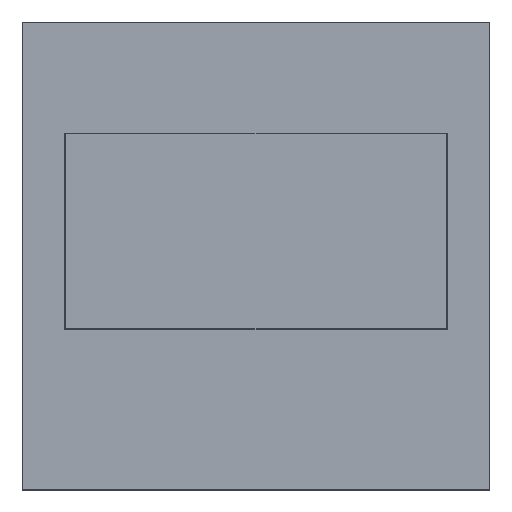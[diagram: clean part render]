
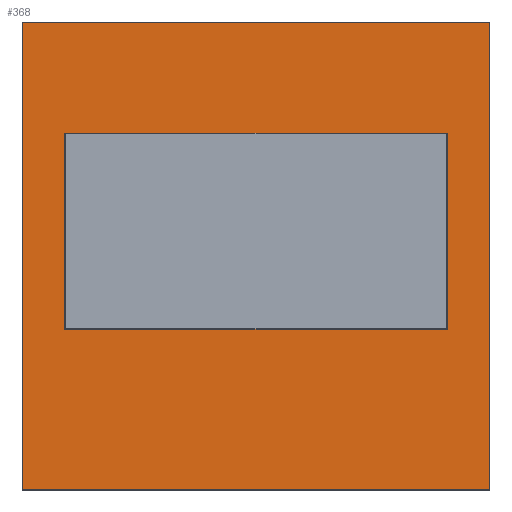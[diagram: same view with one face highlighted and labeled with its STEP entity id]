
A CAD part, top view. The second image highlights one B-rep face of the part: STEP entity #368.
In plain terms, the highlighted planar face has unit normal (0, 0, 1).
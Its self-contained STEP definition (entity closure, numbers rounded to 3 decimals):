
#32 = PLANE('',#33);
#33 = AXIS2_PLACEMENT_3D('',#34,#35,#36);
#34 = CARTESIAN_POINT('',(-13.7,13.7,-2.9));
#35 = DIRECTION('',(0.,1.,0.));
#36 = DIRECTION('',(1.,0.,0.));
#57 = VERTEX_POINT('',#58);
#58 = CARTESIAN_POINT('',(-13.7,13.7,0.));
#72 = PLANE('',#73);
#73 = AXIS2_PLACEMENT_3D('',#74,#75,#76);
#74 = CARTESIAN_POINT('',(-13.7,-13.7,-2.9));
#75 = DIRECTION('',(-1.,0.,0.));
#76 = DIRECTION('',(0.,1.,0.));
#84 = EDGE_CURVE('',#57,#85,#87,.T.);
#85 = VERTEX_POINT('',#86);
#86 = CARTESIAN_POINT('',(13.7,13.7,0.));
#87 = SURFACE_CURVE('',#88,(#92,#99),.PCURVE_S1.);
#88 = LINE('',#89,#90);
#89 = CARTESIAN_POINT('',(-13.7,13.7,0.));
#90 = VECTOR('',#91,1.);
#91 = DIRECTION('',(1.,0.,0.));
#92 = PCURVE('',#32,#93);
#93 = DEFINITIONAL_REPRESENTATION('',(#94),#98);
#94 = LINE('',#95,#96);
#95 = CARTESIAN_POINT('',(0.,-2.9));
#96 = VECTOR('',#97,1.);
#97 = DIRECTION('',(1.,0.));
#98 = ( GEOMETRIC_REPRESENTATION_CONTEXT(2) 
PARAMETRIC_REPRESENTATION_CONTEXT() REPRESENTATION_CONTEXT('2D SPACE',''
  ) );
#99 = PCURVE('',#100,#105);
#100 = PLANE('',#101);
#101 = AXIS2_PLACEMENT_3D('',#102,#103,#104);
#102 = CARTESIAN_POINT('',(0.,0.,0.));
#103 = DIRECTION('',(-0.,-0.,-1.));
#104 = DIRECTION('',(-1.,0.,0.));
#105 = DEFINITIONAL_REPRESENTATION('',(#106),#110);
#106 = LINE('',#107,#108);
#107 = CARTESIAN_POINT('',(13.7,13.7));
#108 = VECTOR('',#109,1.);
#109 = DIRECTION('',(-1.,0.));
#110 = ( GEOMETRIC_REPRESENTATION_CONTEXT(2) 
PARAMETRIC_REPRESENTATION_CONTEXT() REPRESENTATION_CONTEXT('2D SPACE',''
  ) );
#126 = PLANE('',#127);
#127 = AXIS2_PLACEMENT_3D('',#128,#129,#130);
#128 = CARTESIAN_POINT('',(13.7,13.7,-2.9));
#129 = DIRECTION('',(1.,0.,-0.));
#130 = DIRECTION('',(0.,-1.,0.));
#159 = PLANE('',#160);
#160 = AXIS2_PLACEMENT_3D('',#161,#162,#163);
#161 = CARTESIAN_POINT('',(13.7,-13.7,-2.9));
#162 = DIRECTION('',(0.,-1.,0.));
#163 = DIRECTION('',(-1.,0.,0.));
#233 = PLANE('',#234);
#234 = AXIS2_PLACEMENT_3D('',#235,#236,#237);
#235 = CARTESIAN_POINT('',(-11.2,7.2,-1.4));
#236 = DIRECTION('',(0.,1.,0.));
#237 = DIRECTION('',(1.,0.,0.));
#259 = PLANE('',#260);
#260 = AXIS2_PLACEMENT_3D('',#261,#262,#263);
#261 = CARTESIAN_POINT('',(11.2,7.2,-1.4));
#262 = DIRECTION('',(1.,0.,-0.));
#263 = DIRECTION('',(0.,-1.,0.));
#285 = PLANE('',#286);
#286 = AXIS2_PLACEMENT_3D('',#287,#288,#289);
#287 = CARTESIAN_POINT('',(11.2,-4.3,-1.4));
#288 = DIRECTION('',(0.,-1.,0.));
#289 = DIRECTION('',(-1.,0.,0.));
#309 = PLANE('',#310);
#310 = AXIS2_PLACEMENT_3D('',#311,#312,#313);
#311 = CARTESIAN_POINT('',(-11.2,-4.3,-1.4));
#312 = DIRECTION('',(-1.,0.,0.));
#313 = DIRECTION('',(0.,1.,0.));
#325 = EDGE_CURVE('',#85,#326,#328,.T.);
#326 = VERTEX_POINT('',#327);
#327 = CARTESIAN_POINT('',(13.7,-13.7,0.));
#328 = SURFACE_CURVE('',#329,(#333,#340),.PCURVE_S1.);
#329 = LINE('',#330,#331);
#330 = CARTESIAN_POINT('',(13.7,13.7,0.));
#331 = VECTOR('',#332,1.);
#332 = DIRECTION('',(0.,-1.,0.));
#333 = PCURVE('',#126,#334);
#334 = DEFINITIONAL_REPRESENTATION('',(#335),#339);
#335 = LINE('',#336,#337);
#336 = CARTESIAN_POINT('',(0.,-2.9));
#337 = VECTOR('',#338,1.);
#338 = DIRECTION('',(1.,0.));
#339 = ( GEOMETRIC_REPRESENTATION_CONTEXT(2) 
PARAMETRIC_REPRESENTATION_CONTEXT() REPRESENTATION_CONTEXT('2D SPACE',''
  ) );
#340 = PCURVE('',#100,#341);
#341 = DEFINITIONAL_REPRESENTATION('',(#342),#346);
#342 = LINE('',#343,#344);
#343 = CARTESIAN_POINT('',(-13.7,13.7));
#344 = VECTOR('',#345,1.);
#345 = DIRECTION('',(0.,-1.));
#346 = ( GEOMETRIC_REPRESENTATION_CONTEXT(2) 
PARAMETRIC_REPRESENTATION_CONTEXT() REPRESENTATION_CONTEXT('2D SPACE',''
  ) );
#368 = ADVANCED_FACE('',(#369,#417),#100,.F.);
#369 = FACE_BOUND('',#370,.F.);
#370 = EDGE_LOOP('',(#371,#372,#373,#396));
#371 = ORIENTED_EDGE('',*,*,#84,.T.);
#372 = ORIENTED_EDGE('',*,*,#325,.T.);
#373 = ORIENTED_EDGE('',*,*,#374,.T.);
#374 = EDGE_CURVE('',#326,#375,#377,.T.);
#375 = VERTEX_POINT('',#376);
#376 = CARTESIAN_POINT('',(-13.7,-13.7,0.));
#377 = SURFACE_CURVE('',#378,(#382,#389),.PCURVE_S1.);
#378 = LINE('',#379,#380);
#379 = CARTESIAN_POINT('',(13.7,-13.7,0.));
#380 = VECTOR('',#381,1.);
#381 = DIRECTION('',(-1.,0.,0.));
#382 = PCURVE('',#100,#383);
#383 = DEFINITIONAL_REPRESENTATION('',(#384),#388);
#384 = LINE('',#385,#386);
#385 = CARTESIAN_POINT('',(-13.7,-13.7));
#386 = VECTOR('',#387,1.);
#387 = DIRECTION('',(1.,0.));
#388 = ( GEOMETRIC_REPRESENTATION_CONTEXT(2) 
PARAMETRIC_REPRESENTATION_CONTEXT() REPRESENTATION_CONTEXT('2D SPACE',''
  ) );
#389 = PCURVE('',#159,#390);
#390 = DEFINITIONAL_REPRESENTATION('',(#391),#395);
#391 = LINE('',#392,#393);
#392 = CARTESIAN_POINT('',(0.,-2.9));
#393 = VECTOR('',#394,1.);
#394 = DIRECTION('',(1.,0.));
#395 = ( GEOMETRIC_REPRESENTATION_CONTEXT(2) 
PARAMETRIC_REPRESENTATION_CONTEXT() REPRESENTATION_CONTEXT('2D SPACE',''
  ) );
#396 = ORIENTED_EDGE('',*,*,#397,.T.);
#397 = EDGE_CURVE('',#375,#57,#398,.T.);
#398 = SURFACE_CURVE('',#399,(#403,#410),.PCURVE_S1.);
#399 = LINE('',#400,#401);
#400 = CARTESIAN_POINT('',(-13.7,-13.7,0.));
#401 = VECTOR('',#402,1.);
#402 = DIRECTION('',(0.,1.,0.));
#403 = PCURVE('',#100,#404);
#404 = DEFINITIONAL_REPRESENTATION('',(#405),#409);
#405 = LINE('',#406,#407);
#406 = CARTESIAN_POINT('',(13.7,-13.7));
#407 = VECTOR('',#408,1.);
#408 = DIRECTION('',(0.,1.));
#409 = ( GEOMETRIC_REPRESENTATION_CONTEXT(2) 
PARAMETRIC_REPRESENTATION_CONTEXT() REPRESENTATION_CONTEXT('2D SPACE',''
  ) );
#410 = PCURVE('',#72,#411);
#411 = DEFINITIONAL_REPRESENTATION('',(#412),#416);
#412 = LINE('',#413,#414);
#413 = CARTESIAN_POINT('',(0.,-2.9));
#414 = VECTOR('',#415,1.);
#415 = DIRECTION('',(1.,0.));
#416 = ( GEOMETRIC_REPRESENTATION_CONTEXT(2) 
PARAMETRIC_REPRESENTATION_CONTEXT() REPRESENTATION_CONTEXT('2D SPACE',''
  ) );
#417 = FACE_BOUND('',#418,.F.);
#418 = EDGE_LOOP('',(#419,#444,#467,#490));
#419 = ORIENTED_EDGE('',*,*,#420,.F.);
#420 = EDGE_CURVE('',#421,#423,#425,.T.);
#421 = VERTEX_POINT('',#422);
#422 = CARTESIAN_POINT('',(-11.2,7.2,0.));
#423 = VERTEX_POINT('',#424);
#424 = CARTESIAN_POINT('',(11.2,7.2,0.));
#425 = SURFACE_CURVE('',#426,(#430,#437),.PCURVE_S1.);
#426 = LINE('',#427,#428);
#427 = CARTESIAN_POINT('',(-11.2,7.2,0.));
#428 = VECTOR('',#429,1.);
#429 = DIRECTION('',(1.,0.,0.));
#430 = PCURVE('',#100,#431);
#431 = DEFINITIONAL_REPRESENTATION('',(#432),#436);
#432 = LINE('',#433,#434);
#433 = CARTESIAN_POINT('',(11.2,7.2));
#434 = VECTOR('',#435,1.);
#435 = DIRECTION('',(-1.,0.));
#436 = ( GEOMETRIC_REPRESENTATION_CONTEXT(2) 
PARAMETRIC_REPRESENTATION_CONTEXT() REPRESENTATION_CONTEXT('2D SPACE',''
  ) );
#437 = PCURVE('',#233,#438);
#438 = DEFINITIONAL_REPRESENTATION('',(#439),#443);
#439 = LINE('',#440,#441);
#440 = CARTESIAN_POINT('',(0.,-1.4));
#441 = VECTOR('',#442,1.);
#442 = DIRECTION('',(1.,0.));
#443 = ( GEOMETRIC_REPRESENTATION_CONTEXT(2) 
PARAMETRIC_REPRESENTATION_CONTEXT() REPRESENTATION_CONTEXT('2D SPACE',''
  ) );
#444 = ORIENTED_EDGE('',*,*,#445,.F.);
#445 = EDGE_CURVE('',#446,#421,#448,.T.);
#446 = VERTEX_POINT('',#447);
#447 = CARTESIAN_POINT('',(-11.2,-4.3,0.));
#448 = SURFACE_CURVE('',#449,(#453,#460),.PCURVE_S1.);
#449 = LINE('',#450,#451);
#450 = CARTESIAN_POINT('',(-11.2,-4.3,0.));
#451 = VECTOR('',#452,1.);
#452 = DIRECTION('',(0.,1.,0.));
#453 = PCURVE('',#100,#454);
#454 = DEFINITIONAL_REPRESENTATION('',(#455),#459);
#455 = LINE('',#456,#457);
#456 = CARTESIAN_POINT('',(11.2,-4.3));
#457 = VECTOR('',#458,1.);
#458 = DIRECTION('',(0.,1.));
#459 = ( GEOMETRIC_REPRESENTATION_CONTEXT(2) 
PARAMETRIC_REPRESENTATION_CONTEXT() REPRESENTATION_CONTEXT('2D SPACE',''
  ) );
#460 = PCURVE('',#309,#461);
#461 = DEFINITIONAL_REPRESENTATION('',(#462),#466);
#462 = LINE('',#463,#464);
#463 = CARTESIAN_POINT('',(0.,-1.4));
#464 = VECTOR('',#465,1.);
#465 = DIRECTION('',(1.,0.));
#466 = ( GEOMETRIC_REPRESENTATION_CONTEXT(2) 
PARAMETRIC_REPRESENTATION_CONTEXT() REPRESENTATION_CONTEXT('2D SPACE',''
  ) );
#467 = ORIENTED_EDGE('',*,*,#468,.F.);
#468 = EDGE_CURVE('',#469,#446,#471,.T.);
#469 = VERTEX_POINT('',#470);
#470 = CARTESIAN_POINT('',(11.2,-4.3,0.));
#471 = SURFACE_CURVE('',#472,(#476,#483),.PCURVE_S1.);
#472 = LINE('',#473,#474);
#473 = CARTESIAN_POINT('',(11.2,-4.3,0.));
#474 = VECTOR('',#475,1.);
#475 = DIRECTION('',(-1.,0.,0.));
#476 = PCURVE('',#100,#477);
#477 = DEFINITIONAL_REPRESENTATION('',(#478),#482);
#478 = LINE('',#479,#480);
#479 = CARTESIAN_POINT('',(-11.2,-4.3));
#480 = VECTOR('',#481,1.);
#481 = DIRECTION('',(1.,0.));
#482 = ( GEOMETRIC_REPRESENTATION_CONTEXT(2) 
PARAMETRIC_REPRESENTATION_CONTEXT() REPRESENTATION_CONTEXT('2D SPACE',''
  ) );
#483 = PCURVE('',#285,#484);
#484 = DEFINITIONAL_REPRESENTATION('',(#485),#489);
#485 = LINE('',#486,#487);
#486 = CARTESIAN_POINT('',(0.,-1.4));
#487 = VECTOR('',#488,1.);
#488 = DIRECTION('',(1.,0.));
#489 = ( GEOMETRIC_REPRESENTATION_CONTEXT(2) 
PARAMETRIC_REPRESENTATION_CONTEXT() REPRESENTATION_CONTEXT('2D SPACE',''
  ) );
#490 = ORIENTED_EDGE('',*,*,#491,.F.);
#491 = EDGE_CURVE('',#423,#469,#492,.T.);
#492 = SURFACE_CURVE('',#493,(#497,#504),.PCURVE_S1.);
#493 = LINE('',#494,#495);
#494 = CARTESIAN_POINT('',(11.2,7.2,0.));
#495 = VECTOR('',#496,1.);
#496 = DIRECTION('',(0.,-1.,0.));
#497 = PCURVE('',#100,#498);
#498 = DEFINITIONAL_REPRESENTATION('',(#499),#503);
#499 = LINE('',#500,#501);
#500 = CARTESIAN_POINT('',(-11.2,7.2));
#501 = VECTOR('',#502,1.);
#502 = DIRECTION('',(0.,-1.));
#503 = ( GEOMETRIC_REPRESENTATION_CONTEXT(2) 
PARAMETRIC_REPRESENTATION_CONTEXT() REPRESENTATION_CONTEXT('2D SPACE',''
  ) );
#504 = PCURVE('',#259,#505);
#505 = DEFINITIONAL_REPRESENTATION('',(#506),#510);
#506 = LINE('',#507,#508);
#507 = CARTESIAN_POINT('',(0.,-1.4));
#508 = VECTOR('',#509,1.);
#509 = DIRECTION('',(1.,0.));
#510 = ( GEOMETRIC_REPRESENTATION_CONTEXT(2) 
PARAMETRIC_REPRESENTATION_CONTEXT() REPRESENTATION_CONTEXT('2D SPACE',''
  ) );
